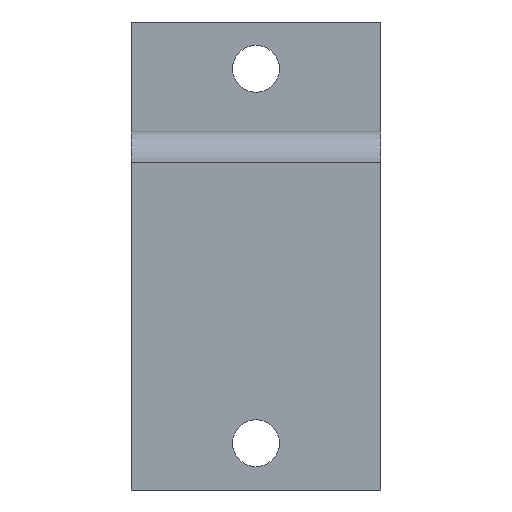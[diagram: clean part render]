
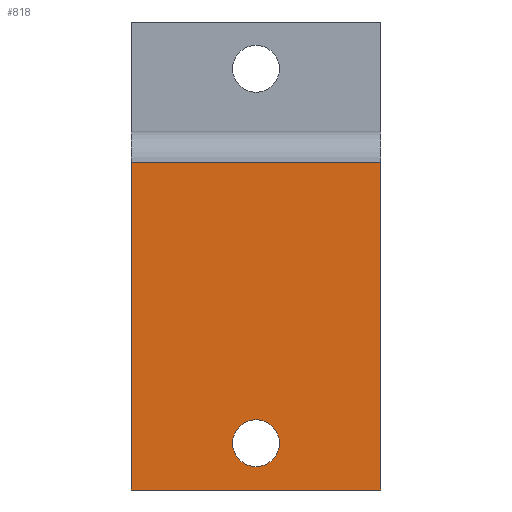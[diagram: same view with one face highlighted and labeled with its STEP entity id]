
A CAD part, left-side view. The second image highlights one B-rep face of the part: STEP entity #818.
In plain terms, the highlighted planar face has unit normal (-1, 0, 0).
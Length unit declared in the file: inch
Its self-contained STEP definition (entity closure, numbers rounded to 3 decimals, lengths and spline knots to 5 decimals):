
#45=PLANE('',#888);
#100=LINE('',#1257,#182);
#122=LINE('',#1316,#204);
#124=LINE('',#1319,#206);
#127=LINE('',#1323,#209);
#182=VECTOR('',#1037,2.);
#204=VECTOR('',#1091,2.);
#206=VECTOR('',#1095,2.62496);
#209=VECTOR('',#1100,2.62496);
#215=FACE_BOUND('',#305,.T.);
#257=FACE_OUTER_BOUND('',#304,.T.);
#304=EDGE_LOOP('',(#715,#716,#717,#718));
#305=EDGE_LOOP('',(#719));
#320=CIRCLE('',#865,0.1875);
#376=VERTEX_POINT('',#1248);
#379=VERTEX_POINT('',#1254);
#380=VERTEX_POINT('',#1256);
#400=VERTEX_POINT('',#1313);
#401=VERTEX_POINT('',#1315);
#470=EDGE_CURVE('',#376,#376,#320,.T.);
#473=EDGE_CURVE('',#380,#379,#100,.T.);
#502=EDGE_CURVE('',#401,#400,#122,.T.);
#504=EDGE_CURVE('',#400,#380,#124,.T.);
#507=EDGE_CURVE('',#379,#401,#127,.T.);
#715=ORIENTED_EDGE('',*,*,#473,.T.);
#716=ORIENTED_EDGE('',*,*,#507,.T.);
#717=ORIENTED_EDGE('',*,*,#502,.T.);
#718=ORIENTED_EDGE('',*,*,#504,.T.);
#719=ORIENTED_EDGE('',*,*,#470,.T.);
#818=ADVANCED_FACE('',(#257,#215),#45,.F.);
#865=AXIS2_PLACEMENT_3D('',#1249,#1029,#1030);
#888=AXIS2_PLACEMENT_3D('',#1325,#1103,#1104);
#1029=DIRECTION('center_axis',(1.,0.,0.));
#1030=DIRECTION('ref_axis',(0.,0.,
-1.));
#1037=DIRECTION('',(0.,1.,0.));
#1091=DIRECTION('',(0.,-1.,0.));
#1095=DIRECTION('',(0.,0.,1.));
#1100=DIRECTION('',(0.,0.,-1.));
#1103=DIRECTION('center_axis',(1.,0.,0.));
#1104=DIRECTION('ref_axis',(0.,0.,-1.));
#1248=CARTESIAN_POINT('',(-1.5,0.,-3.18754));
#1249=CARTESIAN_POINT('Origin',(-1.5,0.,-3.37504));
#1254=CARTESIAN_POINT('',(-1.5,1.,-1.12504));
#1256=CARTESIAN_POINT('',(-1.5,-1.,-1.12504));
#1257=CARTESIAN_POINT('',(-1.5,-0.5,-1.12504));
#1313=CARTESIAN_POINT('',(-1.5,-1.,-3.75));
#1315=CARTESIAN_POINT('',(-1.5,1.,-3.75));
#1316=CARTESIAN_POINT('',(-1.5,1.,-3.75));
#1319=CARTESIAN_POINT('',(-1.5,-1.,-3.75));
#1323=CARTESIAN_POINT('',(-1.5,1.,1.2842));
#1325=CARTESIAN_POINT('Origin',(-1.5,0.,-1.2329));
